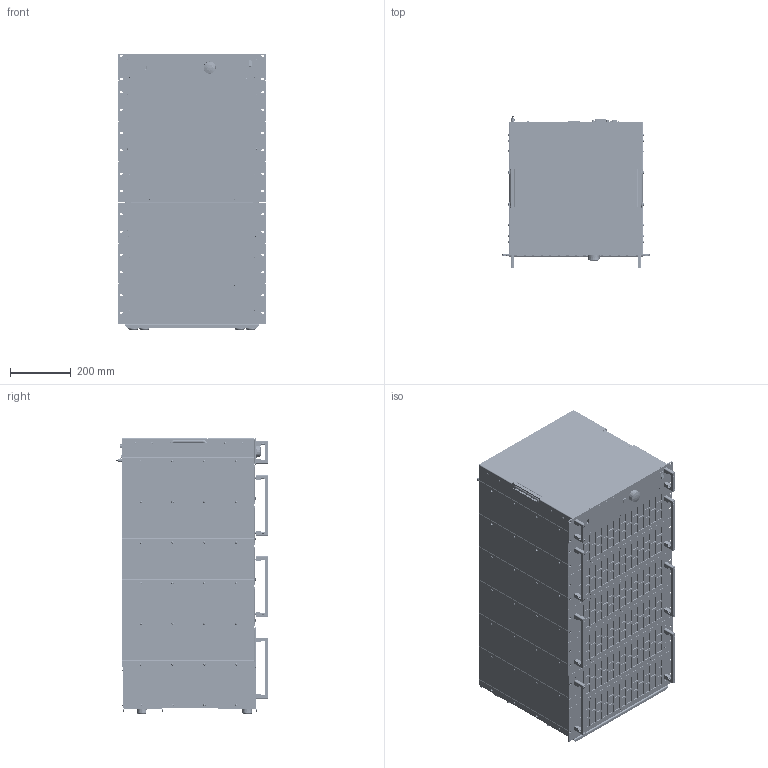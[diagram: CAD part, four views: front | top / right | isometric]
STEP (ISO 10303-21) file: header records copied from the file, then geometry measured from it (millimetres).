
FILE_DESCRIPTION(('STEP AP214'),'1');
FILE_NAME('ACL_M23_19Z_20HE_PH3_15_ST125_BRA_3D_01.step','2022-11-23T08:18:32',(' '),(' '),'Spatial InterOp 3D',' ',' ');
FILE_SCHEMA(('AUTOMOTIVE_DESIGN { 1 0 10303 214 1 1 1 1 }'));
Length unit declared in the file: millimetre
Products named in the file (26): ACLS_3HE_Leistungsteil_Bodenwanne_2_Füße_3D_01; *U290; *U291; *U292; AutoCreatedBlock_3A7; ACL_M23_19Z_20HE_PH3_15_ST125_BRA_3D_01; ACLS_3HE_Leistungsteil_3D_01; *U296; *U297; *U298; AutoCreatedBlock_3A9; 3666_2HE_ug-05_055; ACLSRV_Steuerteil_PH3_15-ST125_BRA_3D_01; *U449; *U450; *U452; *U454; *U456; *U458; *U460; *U461; 2078_ACL_IO Panel_02; *U463; AutoCreatedBlock_3AB; Griff 5HE; AutoCreatedBlock_3A5
Assembly tree (109 placements, depth 3):
  ACL_M23_19Z_20HE_PH3_15_ST125_BRA_3D_01
    ACLS_3HE_Leistungsteil_Bodenwanne_2_Füße_3D_01
      *U290  x8
      *U291  x6
      *U292  x8
      AutoCreatedBlock_3A7
    ACLS_3HE_Leistungsteil_3D_01  x5
      *U296
      *U297
      *U298
      AutoCreatedBlock_3A9
    3666_2HE_ug-05_055  x2
    ACLSRV_Steuerteil_PH3_15-ST125_BRA_3D_01
      *U449  x2
      *U450
      *U452  x3
      *U454  x2
      *U456  x2
      *U458  x13
      *U460  x16
      *U461  x2
      2078_ACL_IO Panel_02
      *U463  x4
      AutoCreatedBlock_3AB
    Griff 5HE  x6
    AutoCreatedBlock_3A5
Bounding box: 482.61 x 497.65 x 905.88 mm (x, y, z)
Volume: 164324668.4 mm3; surface area: 7993116 mm2
Topology: 413 solids, 661 shells, 31133 faces, 78722 edges, 49440 vertices
Faces by surface type: plane 15018, cone 10345, cylinder 5021, sphere 334, torus 213, bspline 202
Entity records: 616771 total; most frequent: CARTESIAN_POINT 115187, DIRECTION 78341, ORIENTED_EDGE 75882, EDGE_CURVE 38099, LINE 27031, VECTOR 27031, AXIS2_PLACEMENT_3D 25655, VERTEX_POINT 24033
